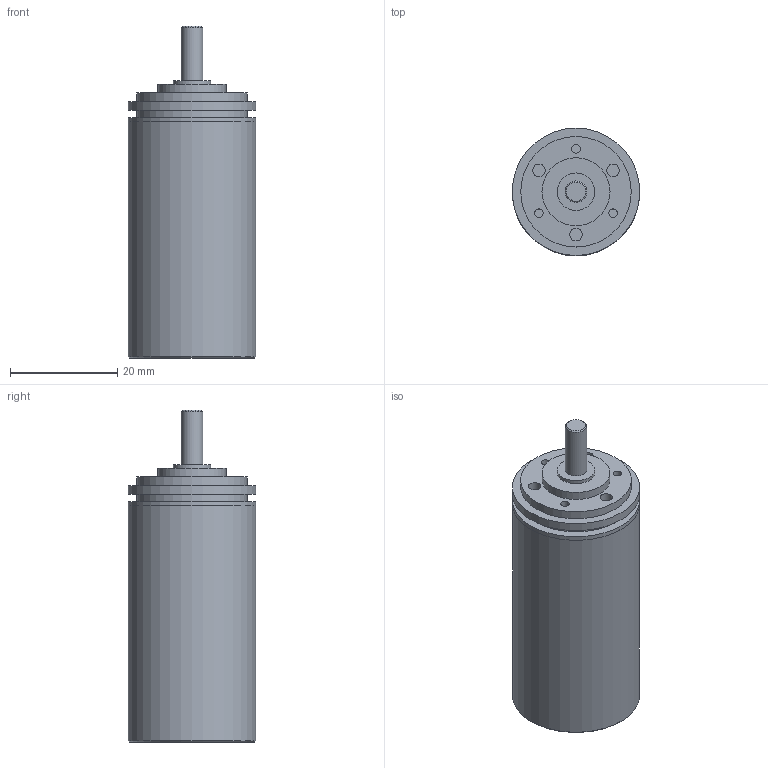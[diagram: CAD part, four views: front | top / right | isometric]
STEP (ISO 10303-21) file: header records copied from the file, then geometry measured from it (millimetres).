
FILE_DESCRIPTION(/* description */ (''),/* implementation_level */ '2;1');
FILE_NAME(/* name */ '22-2_4.stp',/* time_stamp */ '2016-08-26T11:13:59+02:00',/* author */ ('DR. FRITZ FAULHABER GmbH & Co. KG'),/* organization */ ('DR. FRITZ FAULHABER GmbH & Co. KG'),/* preprocessor_version */ 'ST-DEVELOPER v16',/* originating_system */ 'SIEMENS PLM Software NX 10.0',/* authorisation */ '');
FILE_SCHEMA (('AUTOMOTIVE_DESIGN { 1 0 10303 214 3 1 1 1 }'));
Length unit declared in the file: millimetre
Products named in the file (1): H00000854_A
Bounding box: 23.8 x 23.8 x 62 mm (x, y, z)
Volume: 14122.2 mm3; surface area: 6662.2 mm2
Topology: 1 solids, 1 shells, 42 faces, 65 edges, 43 vertices
Faces by surface type: plane 20, cylinder 19, cone 3
Full cylindrical faces by diameter (mm): 1.6 x3, 2.329 x3, 3.5 x1, 4 x1, 4.5 x1, 7 x2, 12.7 x1, 20.63 x2, 22 x1, 23.79 x1, 23.8 x3
Entity records: 858 total; most frequent: DIRECTION 168, CARTESIAN_POINT 125, AXIS2_PLACEMENT_3D 84, EDGE_LOOP 82, ORIENTED_EDGE 82, FACE_BOUND 74, ADVANCED_FACE 42, VERTEX_POINT 41
